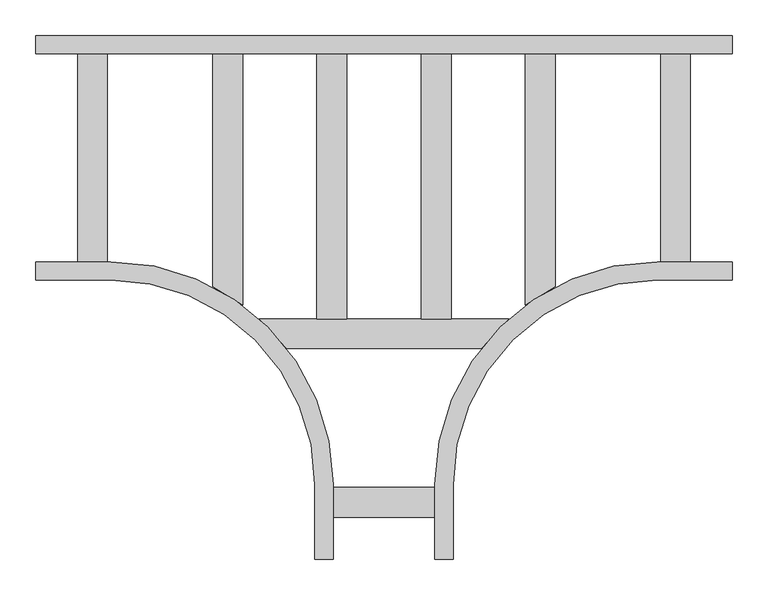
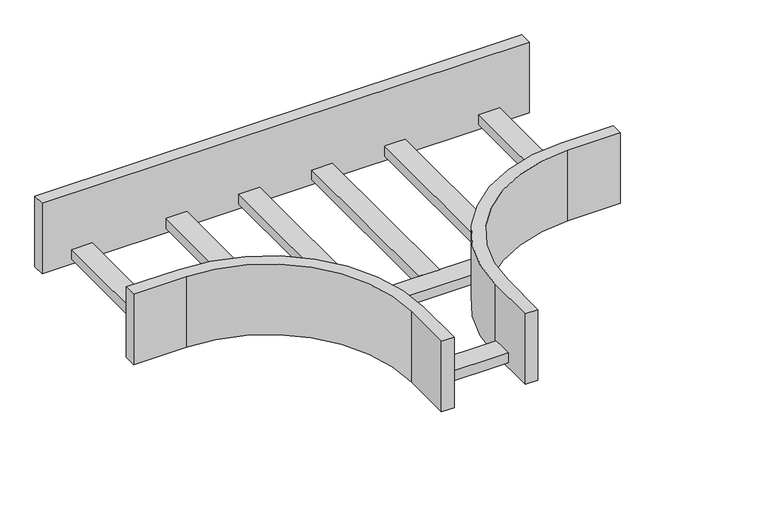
"""IFC4 building model written with IfcOpenShell, lengths in millimetres: cable carrier fitting geometry, Legrand_CableLadder_Swifts_Emerald_Tee-300R-13 : Hot Dip Galvanised (after manufacture)."""

import ifcopenshell
import ifcopenshell.guid

model = None  # the IFC model being written
_history = None  # IfcOwnerHistory: only IFC2X3 demands one
_inside = {}  # id of a spatial element -> (the spatial element, [elements in it])
_under = {}  # id of a project, library or spatial element -> (it, [spatial elements below it])
_declared = {}  # id of a project -> (the project, [libraries it declares])
_typed = {}  # id of a type object -> (the type object, [elements of that type])
_made_of = {}  # id of a material, layer set ... -> (it, [elements and type objects made of it])


def new_model(schema):
    """Start an empty IFC model of exactly this schema.

    Asked for "IFC4X3", IfcOpenShell would pick the latest addendum, in which some entities
    have other attributes; the version numbers below select the first issue.
    IFC2X3 requires an IfcOwnerHistory on every rooted entity: one is made here for all.
    """
    global model, _history
    if schema == "IFC4X3":
        model = ifcopenshell.file(schema_version=(4, 3, 0, 0))
    else:
        model = ifcopenshell.file(schema=schema)
    _inside.clear()
    _under.clear()
    _declared.clear()
    _typed.clear()
    _made_of.clear()
    _history = None
    if model.schema == "IFC2X3":
        org = make("IfcOrganization", Name="unknown")
        user = make(
            "IfcPersonAndOrganization",
            ThePerson=make("IfcPerson", FamilyName="unknown"),
            TheOrganization=org,
        )
        app = make(
            "IfcApplication",
            ApplicationDeveloper=org,
            Version="unknown",
            ApplicationFullName="unknown",
            ApplicationIdentifier="unknown",
        )
        _history = make(
            "IfcOwnerHistory",
            OwningUser=user,
            OwningApplication=app,
            ChangeAction="ADDED",
            CreationDate=0,
        )
    return model


def make(cls, **values):
    """One entity of the class cls with the attributes given. An attribute that is None is left unset."""
    return model.create_entity(
        cls, **{name: value for name, value in values.items() if value is not None}
    )


def rooted(cls, **values):
    """An entity with a GlobalId (a new one), such as an element, a storey or a relation."""
    return make(cls, GlobalId=ifcopenshell.guid.new(), OwnerHistory=_history, **values)


def si_unit(unit_type, name, prefix=None):
    """IfcSIUnit, for example si_unit("LENGTHUNIT", "METRE", prefix="MILLI")."""
    return make("IfcSIUnit", UnitType=unit_type, Prefix=prefix, Name=name)


def assignment(units):
    """IfcUnitAssignment: the units of a project."""
    return None if units is None else make("IfcUnitAssignment", Units=units)


def point(xyz):
    """IfcCartesianPoint."""
    return None if xyz is None else make("IfcCartesianPoint", Coordinates=xyz)


def direction(xyz):
    """IfcDirection."""
    return None if xyz is None else make("IfcDirection", DirectionRatios=xyz)


def frame(location, z_axis=None, x_axis=None):
    """IfcAxis2Placement3D, a coordinate frame: its origin and axes. An axis left out is left unset."""
    return make(
        "IfcAxis2Placement3D",
        Location=point(location),
        Axis=direction(z_axis),
        RefDirection=direction(x_axis),
    )


def frame_2d(location, x_axis=None):
    """IfcAxis2Placement2D, a coordinate frame in the plane: its origin and x axis."""
    return make(
        "IfcAxis2Placement2D", Location=point(location), RefDirection=direction(x_axis)
    )


def origin():
    """The frame at (0, 0, 0) with its axes left unset."""
    return frame((0.0, 0.0, 0.0))


def place(relative_to, where):
    """IfcLocalPlacement: puts the frame where relative to a parent placement (None: the world)."""
    return make(
        "IfcLocalPlacement", PlacementRelTo=relative_to, RelativePlacement=where
    )


def context(
    kind, dimensions, precision=None, world=None, true_north=None, identifier=None
):
    """IfcGeometricRepresentationContext, for example the 3D "Model" context."""
    return make(
        "IfcGeometricRepresentationContext",
        ContextIdentifier=identifier,
        ContextType=kind,
        CoordinateSpaceDimension=dimensions,
        Precision=precision,
        WorldCoordinateSystem=world,
        TrueNorth=true_north,
    )


def project(units=None, contexts=None):
    """IfcProject with its units and contexts."""
    return rooted(
        "IfcProject",
        Name="project",
        RepresentationContexts=contexts,
        UnitsInContext=assignment(units),
    )


def spatial(cls, under=None, at=None, **own):
    """A site, building, storey or space (cls), placed at a placement, below another one or the project."""
    s = rooted(cls, ObjectPlacement=at, **own)
    if under is not None:
        _under.setdefault(under.id(), (under, []))[1].append(s)
    return s


def polyline(points):
    """IfcPolyline through the points."""
    return make("IfcPolyline", Points=[point(p) for p in points])


def circle_curve(where, radius):
    """IfcCircle in the frame where."""
    return make("IfcCircle", Position=where, Radius=radius)


def trimmed(basis, trim1, trim2, sense, master):
    """IfcTrimmedCurve: the piece of a basis curve between two trims."""
    return make(
        "IfcTrimmedCurve",
        BasisCurve=basis,
        Trim1=trim1,
        Trim2=trim2,
        SenseAgreement=sense,
        MasterRepresentation=master,
    )


def segment(curve, same_sense, transition):
    """IfcCompositeCurveSegment."""
    return make(
        "IfcCompositeCurveSegment",
        Transition=transition,
        SameSense=same_sense,
        ParentCurve=curve,
    )


def composite_curve(segments, self_intersect=None):
    """IfcCompositeCurve: segments joined end to end."""
    return make("IfcCompositeCurve", Segments=segments, SelfIntersect=self_intersect)


def outline(outer, holes=None, kind="AREA"):
    """IfcArbitraryClosedProfileDef: a profile drawn as a closed curve; with holes, ...WithVoids."""
    if holes is None:
        return make("IfcArbitraryClosedProfileDef", ProfileType=kind, OuterCurve=outer)
    return make(
        "IfcArbitraryProfileDefWithVoids",
        ProfileType=kind,
        OuterCurve=outer,
        InnerCurves=holes,
    )


def extrude(swept, where, along, depth):
    """IfcExtrudedAreaSolid: the profile swept, set in the frame where, extruded along a direction by depth."""
    return make(
        "IfcExtrudedAreaSolid",
        SweptArea=swept,
        Position=where,
        ExtrudedDirection=direction(along),
        Depth=depth,
    )


def shape(context_of_items, identifier, shape_type, items):
    """IfcShapeRepresentation: the items that make up one representation, for example the "Body"."""
    return make(
        "IfcShapeRepresentation",
        ContextOfItems=context_of_items,
        RepresentationIdentifier=identifier,
        RepresentationType=shape_type,
        Items=items,
    )


def source(mapping_origin, context_of_items, identifier, shape_type, items):
    """IfcRepresentationMap: a shape defined once, which mapped items show again and again."""
    return make(
        "IfcRepresentationMap",
        MappingOrigin=mapping_origin,
        MappedRepresentation=shape(context_of_items, identifier, shape_type, items),
    )


def transform(
    local_origin,
    x_axis=None,
    y_axis=None,
    z_axis=None,
    scale=None,
    scale2=None,
    scale3=None,
    uniform=True,
):
    """IfcCartesianTransformationOperator3D, or its non-uniform kind. x_axis, y_axis, z_axis: its Axis1, 2, 3."""
    if uniform:
        return make(
            "IfcCartesianTransformationOperator3D",
            Axis1=direction(x_axis),
            Axis2=direction(y_axis),
            LocalOrigin=point(local_origin),
            Scale=scale,
            Axis3=direction(z_axis),
        )
    return make(
        "IfcCartesianTransformationOperator3DnonUniform",
        Axis1=direction(x_axis),
        Axis2=direction(y_axis),
        LocalOrigin=point(local_origin),
        Scale=scale,
        Axis3=direction(z_axis),
        Scale2=scale2,
        Scale3=scale3,
    )


def mapped(mapping_source, mapping_target):
    """IfcMappedItem: shows the shape of a source again, moved by a transform."""
    return make(
        "IfcMappedItem", MappingSource=mapping_source, MappingTarget=mapping_target
    )


def made_of(thing, what):
    """Note that an element or type object is made of a material, layer set ...; save() writes the relation."""
    if what is not None:
        _made_of.setdefault(what.id(), (what, []))[1].append(thing)
    return thing


def element(
    cls,
    number,
    at=None,
    inside=None,
    cuts=None,
    type_object=None,
    material=None,
    context=None,
    identifier="Body",
    shape_type=None,
    held_by="IfcProductDefinitionShape",
    body=None,
    shapes=None,
    **own,
):
    """One element of the class cls, such as IfcWall. Its Tag is "e" and its number.

    at: its placement. inside: the storey or other place that contains it. cuts: it is an
    opening in that element (IfcRelVoidsElement). A single representation is given by context,
    identifier, shape_type and body (its items); several are given by shapes. held_by: the class
    of the entity that holds the representations. save() writes the other relations.
    """
    e = rooted(cls, Tag="e%d" % number, ObjectPlacement=at, **own)
    if body is not None:
        shapes = [shape(context, identifier, shape_type, body)]
    if shapes is not None:
        e.Representation = make(held_by, Representations=shapes)
    if inside is not None:
        _inside.setdefault(inside.id(), (inside, []))[1].append(e)
    if cuts is not None:
        rooted(
            "IfcRelVoidsElement", RelatingBuildingElement=cuts, RelatedOpeningElement=e
        )
    if type_object is not None:
        _typed.setdefault(type_object.id(), (type_object, []))[1].append(e)
    return made_of(e, material)


def aggregate(whole, parts):
    """IfcRelAggregates: a whole, such as a stair, and the parts it consists of."""
    return rooted("IfcRelAggregates", RelatingObject=whole, RelatedObjects=parts)


def save(model, path):
    """Write the relations noted so far, then the file.

    IfcRelAggregates (storeys below a building ...), IfcRelContainedInSpatialStructure (elements
    in a storey), IfcRelDefinesByType, IfcRelAssociatesMaterial and IfcRelDeclares: one each for
    every whole, place, type object, material and project.
    """
    for whole, parts in _under.values():
        aggregate(whole, parts)
    for where, things in _inside.values():
        rooted(
            "IfcRelContainedInSpatialStructure",
            RelatedElements=things,
            RelatingStructure=where,
        )
    for kind, things in _typed.values():
        rooted("IfcRelDefinesByType", RelatedObjects=things, RelatingType=kind)
    for what, things in _made_of.values():
        rooted("IfcRelAssociatesMaterial", RelatedObjects=things, RelatingMaterial=what)
    for by, libraries in _declared.values():
        rooted("IfcRelDeclares", RelatingContext=by, RelatedDefinitions=libraries)
    model.write(path)


def cable_carrier_fitting_7b7ebac5(model_context):
    return source(origin(), model_context, "Body", "SweptSolid", [
        extrude(outline(composite_curve([segment(polyline([(-240.875, 146.5), (-198.875, 146.5), (-198.875, -207.3598019)]), True, "CONTINUOUS"), segment(trimmed(circle_curve(frame_2d((-384.25, -459.25)), 312.75), [point((-198.875, -207.3598019))], [point((-240.875, -181.3000551))], True, "CARTESIAN"), True, "CONTINUOUS"), segment(polyline([(-240.875, -181.3000551), (-240.875, 146.5)]), True, "CONTINUOUS")], self_intersect=False)), frame((0.0, 0.0, -65.0), z_axis=(0.0, 0.0, 1.0), x_axis=(1.0, 0.0, 0.0)), (0.0, 0.0, 1.0), 21.0),
        extrude(outline(composite_curve([segment(polyline([(198.875, 146.5), (240.875, 146.5), (240.875, -181.3000551)]), True, "CONTINUOUS"), segment(trimmed(circle_curve(frame_2d((384.25, -459.25)), 312.75), [point((240.875, -181.3000551))], [point((198.875, -207.3598019))], True, "CARTESIAN"), True, "CONTINUOUS"), segment(polyline([(198.875, -207.3598019), (198.875, 146.5)]), True, "CONTINUOUS")], self_intersect=False)), frame((0.0, 0.0, -65.0), z_axis=(0.0, 0.0, 1.0), x_axis=(1.0, 0.0, 0.0)), (0.0, 0.0, 1.0), 21.0),
        extrude(outline(polyline([(-94.2916667, -226.5), (-94.2916667, 146.5), (-52.2916667, 146.5), (-52.2916667, -226.5), (-94.2916667, -226.5)])), frame((0.0, 0.0, -65.0), z_axis=(0.0, 0.0, 1.0), x_axis=(1.0, 0.0, 0.0)), (0.0, 0.0, 1.0), 21.0),
        extrude(outline(polyline([(52.2916667, -226.5), (52.2916667, 146.5), (94.2916667, 146.5), (94.2916667, -226.5), (52.2916667, -226.5)])), frame((0.0, 0.0, -65.0), z_axis=(0.0, 0.0, 1.0), x_axis=(1.0, 0.0, 0.0)), (0.0, 0.0, 1.0), 21.0),
        extrude(outline(polyline([(71.5, -463.75), (71.5, -505.75), (-71.5, -505.75), (-71.5, -463.75), (71.5, -463.75)])), frame((0.0, 0.0, -65.0), z_axis=(0.0, 0.0, 1.0), x_axis=(1.0, 0.0, 0.0)), (0.0, 0.0, 1.0), 21.0),
        extrude(outline(polyline([(-430.75, -146.5), (-430.75, 146.5), (-388.75, 146.5), (-388.75, -146.5), (-430.75, -146.5)])), frame((0.0, 0.0, -65.0), z_axis=(0.0, 0.0, 1.0), x_axis=(1.0, 0.0, 0.0)), (0.0, 0.0, 1.0), 21.0),
        extrude(outline(polyline([(430.75, -146.5), (388.75, -146.5), (388.75, 146.5), (430.75, 146.5), (430.75, -146.5)])), frame((0.0, 0.0, -65.0), z_axis=(0.0, 0.0, 1.0), x_axis=(1.0, 0.0, 0.0)), (0.0, 0.0, 1.0), 21.0),
        extrude(outline(composite_curve([segment(polyline([(136.4052906, -268.5), (-136.4052906, -268.5)]), True, "CONTINUOUS"), segment(trimmed(circle_curve(frame_2d((-384.25, -459.25)), 312.75), [point((-136.4052906, -268.5))], [point((-175.3481092, -226.5))], True, "CARTESIAN"), True, "CONTINUOUS"), segment(polyline([(-175.3481092, -226.5), (175.3481092, -226.5)]), True, "CONTINUOUS"), segment(trimmed(circle_curve(frame_2d((384.25, -459.25)), 312.75), [point((175.3481092, -226.5))], [point((136.4052906, -268.5))], True, "CARTESIAN"), True, "CONTINUOUS")], self_intersect=False)), frame((0.0, 0.0, -65.0), z_axis=(0.0, 0.0, 1.0), x_axis=(1.0, 0.0, 0.0)), (0.0, 0.0, 1.0), 21.0),
        extrude(outline(composite_curve([segment(polyline([(489.75, -146.5), (489.75, -172.0), (384.25, -172.0)]), True, "CONTINUOUS"), segment(trimmed(circle_curve(frame_2d((384.25, -459.25)), 287.25), [point((384.25, -172.0))], [point((97.0, -459.25))], True, "CARTESIAN"), True, "CONTINUOUS"), segment(polyline([(97.0, -459.25), (97.0, -564.75), (71.5, -564.75), (71.5, -459.25)]), True, "CONTINUOUS"), segment(trimmed(circle_curve(frame_2d((384.25, -459.25)), 312.75), [point((71.5, -459.25))], [point((384.25, -146.5))], False, "CARTESIAN"), True, "CONTINUOUS"), segment(polyline([(384.25, -146.5), (489.75, -146.5)]), True, "CONTINUOUS")], self_intersect=False)), frame((0.0, 0.0, -75.0), z_axis=(0.0, 0.0, 1.0), x_axis=(1.0, 0.0, 0.0)), (0.0, 0.0, 1.0), 150.0),
        extrude(outline(composite_curve([segment(polyline([(-489.75, -172.0), (-489.75, -146.5), (-384.25, -146.5)]), True, "CONTINUOUS"), segment(trimmed(circle_curve(frame_2d((-384.25, -459.25)), 312.75), [point((-384.25, -146.5))], [point((-71.5, -459.25))], False, "CARTESIAN"), True, "CONTINUOUS"), segment(polyline([(-71.5, -459.25), (-71.5, -564.75), (-97.0, -564.75), (-97.0, -459.25)]), True, "CONTINUOUS"), segment(trimmed(circle_curve(frame_2d((-384.25, -459.25)), 287.25), [point((-97.0, -459.25))], [point((-384.25, -172.0))], True, "CARTESIAN"), True, "CONTINUOUS"), segment(polyline([(-384.25, -172.0), (-489.75, -172.0)]), True, "CONTINUOUS")], self_intersect=False)), frame((0.0, 0.0, -75.0), z_axis=(0.0, 0.0, 1.0), x_axis=(1.0, 0.0, 0.0)), (0.0, 0.0, 1.0), 150.0),
        extrude(outline(polyline([(-489.75, 146.5), (-489.75, 172.0), (489.75, 172.0), (489.75, 146.5), (-489.75, 146.5)])), frame((0.0, 0.0, -75.0), z_axis=(0.0, 0.0, 1.0), x_axis=(1.0, 0.0, 0.0)), (0.0, 0.0, 1.0), 150.0),
    ])


if __name__ == "__main__":
    model = new_model("IFC4")
    model_context = context("Model", 3, world=origin())
    ifc_project = project(units=[si_unit("LENGTHUNIT", "METRE", prefix="MILLI")], contexts=[model_context])
    site = spatial("IfcSite", under=ifc_project)
    building = spatial("IfcBuilding", under=site)
    placement = place(None, origin())
    cable_carrier_fitting_shape = cable_carrier_fitting_7b7ebac5(model_context)
    element("IfcCableCarrierFitting", 1, ObjectType="Legrand_CableLadder_Swifts_Emerald_Tee-300R-13 : Hot Dip Galvanised (after manufacture)", at=placement, inside=building, context=model_context, shape_type="MappedRepresentation", body=[
        mapped(cable_carrier_fitting_shape, transform((0.0, 0.0, 0.0), x_axis=(1.0, 0.0, 0.0), y_axis=(0.0, 1.0, 0.0), z_axis=(0.0, 0.0, 1.0))),
    ])
    save(model, "model.ifc")
